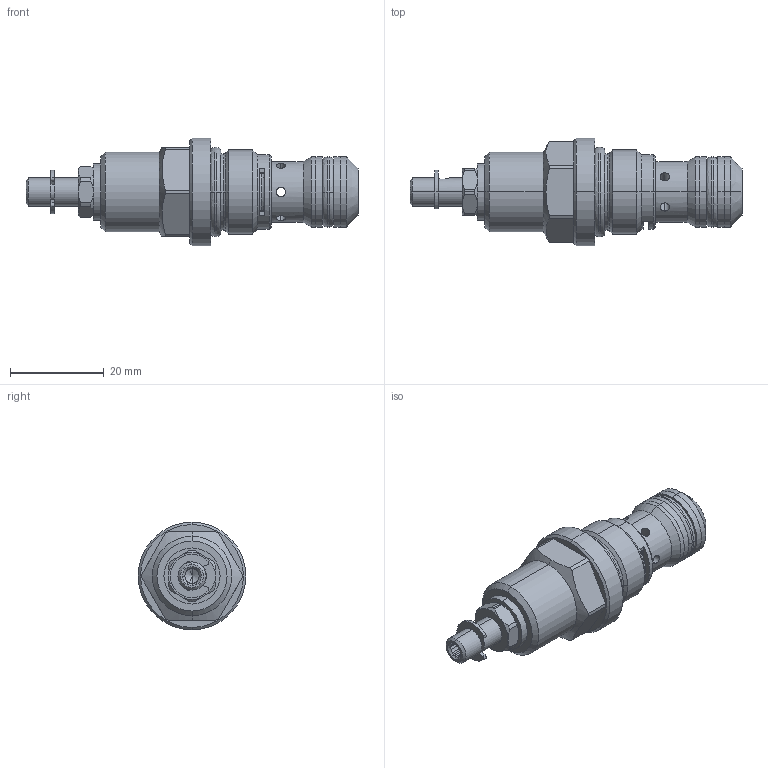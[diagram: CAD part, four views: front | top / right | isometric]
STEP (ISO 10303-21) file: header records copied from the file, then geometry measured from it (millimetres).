
FILE_DESCRIPTION (( 'STEP AP214' ), '1' );
FILE_NAME ('QASPM18.STEP', '2017-03-24T13:45:47', ( '' ), ( '' ), 'SwSTEP 2.0', 'SolidWorks 2016', '' );
FILE_SCHEMA (( 'AUTOMOTIVE_DESIGN' ));
Length unit declared in the file: millimetre
Products named in the file (1): QASPM18
Bounding box: 71 x 23 x 23 mm (x, y, z)
Volume: 13014.4 mm3; surface area: 5688.2 mm2
Topology: 6 solids, 6 shells, 241 faces, 581 edges, 355 vertices
Faces by surface type: cylinder 93, plane 65, cone 42, torus 25, bspline 16
Entity records: 10363 total; most frequent: CARTESIAN_POINT 2128, DIRECTION 1195, ORIENTED_EDGE 1150, EDGE_CURVE 575, AXIS2_PLACEMENT_3D 502, VERTEX_POINT 355, CIRCLE 276, EDGE_LOOP 270
